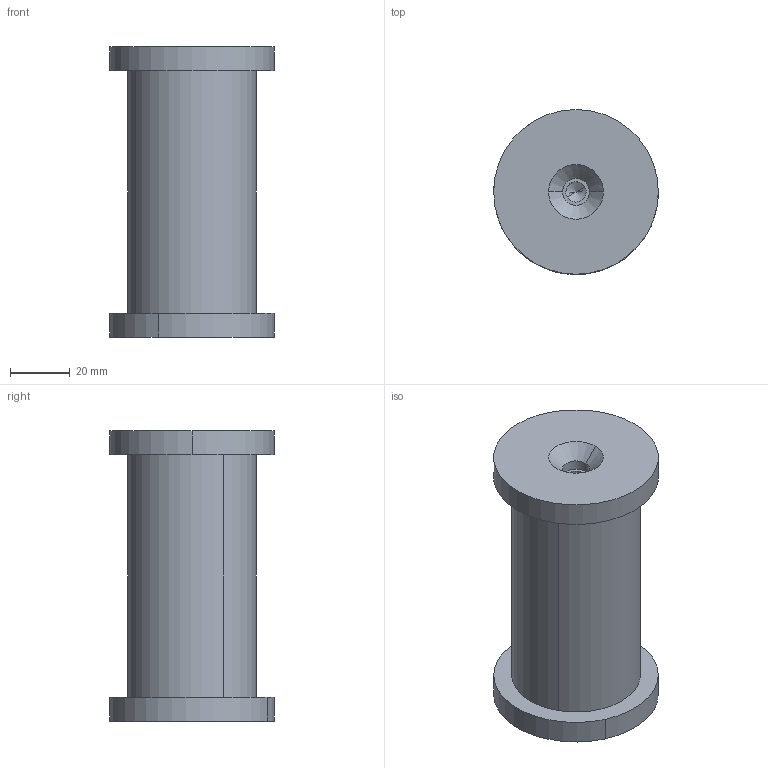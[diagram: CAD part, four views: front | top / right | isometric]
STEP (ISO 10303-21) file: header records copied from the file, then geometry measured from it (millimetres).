
FILE_DESCRIPTION (( 'STEP AP203' ), '1' );
FILE_NAME ('Bolzen Scheibe A M42.STEP', '2018-02-20T07:58:36', ( 'install' ), ( 'Hewlett-Packard Company' ), 'SwSTEP 2.0', 'SolidWorks 2017', '' );
FILE_SCHEMA (( 'CONFIG_CONTROL_DESIGN' ));
Length unit declared in the file: millimetre
Products named in the file (3): Scheibe_M42; Bolzen Scheibe A M42; Bolzen ScheibeVarA_generisch_M42
Assembly tree (3 placements, depth 2):
  Bolzen Scheibe A M42
    Scheibe_M42  x2
    Bolzen ScheibeVarA_generisch_M42
Bounding box: 55 x 55 x 97 mm (x, y, z)
Volume: 152285.1 mm3; surface area: 27089.8 mm2
Topology: 3 solids, 3 shells, 28 faces, 58 edges, 34 vertices
Faces by surface type: cylinder 14, cone 8, plane 6
Entity records: 853 total; most frequent: DIRECTION 112, CARTESIAN_POINT 88, ORIENTED_EDGE 76, AXIS2_PLACEMENT_3D 48, EDGE_CURVE 38, PERSON_AND_ORGANIZATION 27, EDGE_LOOP 24, VERTEX_POINT 24
